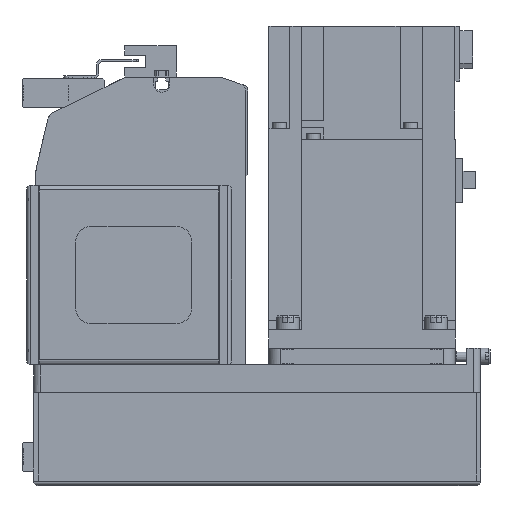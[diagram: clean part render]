
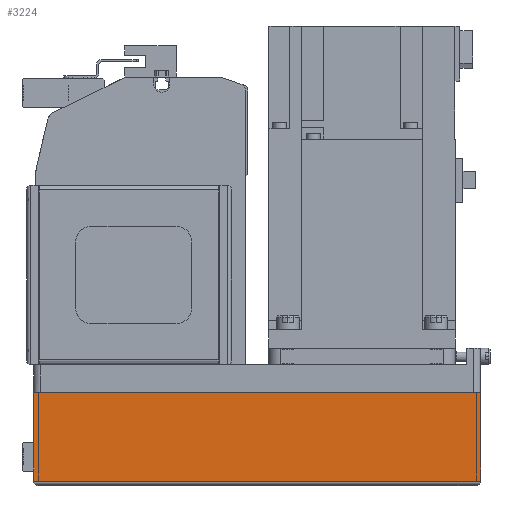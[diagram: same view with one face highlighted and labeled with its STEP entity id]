
A CAD part, left-side view. The second image highlights one B-rep face of the part: STEP entity #3224.
In plain terms, the highlighted planar face has unit normal (-1, 0, 0) as drawn and (0, 1, 0) by its records, which use the part's own axes.
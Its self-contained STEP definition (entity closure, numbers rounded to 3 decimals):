
#3224 = ADVANCED_FACE( '', ( #6703 ), #6704, .T. );
#6703 = FACE_OUTER_BOUND( '', #10197, .T. );
#6704 = PLANE( '', #10198 );
#10197 = EDGE_LOOP( '', ( #19328, #19329, #19330, #19331 ) );
#10198 = AXIS2_PLACEMENT_3D( '', #19332, #19333, #19334 );
#19328 = ORIENTED_EDGE( '', *, *, #22216, .F. );
#19329 = ORIENTED_EDGE( '', *, *, #19795, .F. );
#19330 = ORIENTED_EDGE( '', *, *, #21336, .T. );
#19331 = ORIENTED_EDGE( '', *, *, #19801, .T. );
#19332 = CARTESIAN_POINT( '', ( -192., 40., -50. ) );
#19333 = DIRECTION( '', ( 0., 1., 0. ) );
#19334 = DIRECTION( '', ( 0., 0., 1. ) );
#19795 = EDGE_CURVE( '', #23478, #23481, #23482, .T. );
#19801 = EDGE_CURVE( '', #23492, #23490, #23493, .T. );
#21336 = EDGE_CURVE( '', #23478, #23492, #26094, .T. );
#22216 = EDGE_CURVE( '', #23481, #23490, #27362, .T. );
#23478 = VERTEX_POINT( '', #28932 );
#23481 = VERTEX_POINT( '', #28935 );
#23482 = LINE( '', #28936, #28937 );
#23490 = VERTEX_POINT( '', #28947 );
#23492 = VERTEX_POINT( '', #28950 );
#23493 = LINE( '', #28951, #28952 );
#26094 = LINE( '', #32936, #32937 );
#27362 = LINE( '', #34845, #34846 );
#28932 = CARTESIAN_POINT( '', ( -192., 40., -50. ) );
#28935 = CARTESIAN_POINT( '', ( 0., 40., -50. ) );
#28936 = CARTESIAN_POINT( '', ( -192., 40., -50. ) );
#28937 = VECTOR( '', #37044, 1000. );
#28947 = CARTESIAN_POINT( '', ( 0., 40., -12.1 ) );
#28950 = CARTESIAN_POINT( '', ( -192., 40., -12.1 ) );
#28951 = CARTESIAN_POINT( '', ( -192., 40., -12.1 ) );
#28952 = VECTOR( '', #37051, 1000. );
#32936 = CARTESIAN_POINT( '', ( -192., 40., -50. ) );
#32937 = VECTOR( '', #39006, 1000. );
#34845 = CARTESIAN_POINT( '', ( 0., 40., -50. ) );
#34846 = VECTOR( '', #40035, 1000. );
#37044 = DIRECTION( '', ( 1., 0., 0. ) );
#37051 = DIRECTION( '', ( 1., 0., 0. ) );
#39006 = DIRECTION( '', ( 0., 0., 1. ) );
#40035 = DIRECTION( '', ( 0., 0., 1. ) );
